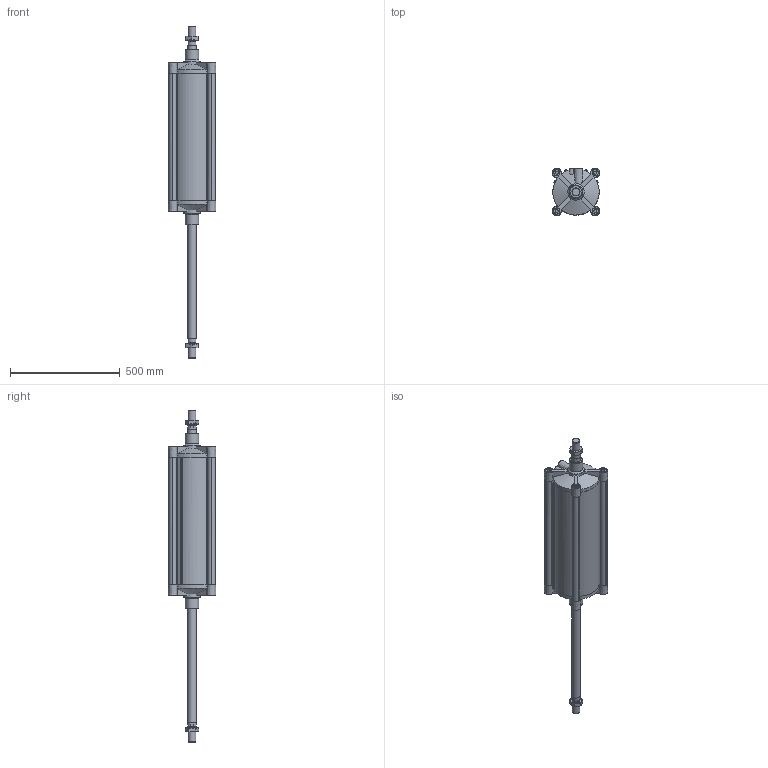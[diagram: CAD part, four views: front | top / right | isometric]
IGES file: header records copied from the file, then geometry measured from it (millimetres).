
Global section: file name: 139#_200_0500_02; native system: Autodesk Inventor 2014; preprocessor: unknown; author: F. Piloni; organization: Pneumax S.p.A.; date: 20151120.143254; units: millimetre
Bounding box: 216 x 216 x 1514 mm (x, y, z)
Volume: 10430184.4 mm3; surface area: 1788982.9 mm2
Topology: 6 solids, 6 shells, 324 faces, 844 edges, 567 vertices
Faces by surface type: bspline 324
